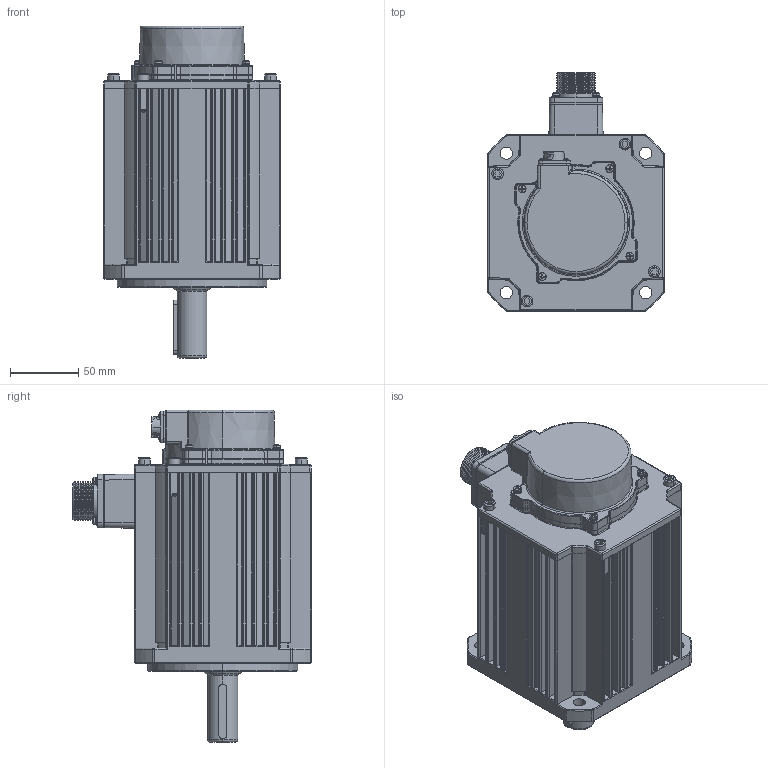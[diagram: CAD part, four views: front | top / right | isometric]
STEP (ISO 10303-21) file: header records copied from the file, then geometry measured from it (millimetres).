
FILE_DESCRIPTION (( 'STEP AP203' ), '1' );
FILE_NAME ('G3-130-14.64NM标准电机三维图.STEP', '2022-12-05T11:26:16', ( '微软用户' ), ( '微软中国' ), 'SwSTEP 2.0', 'SolidWorks 2016', '' );
FILE_SCHEMA (( 'CONFIG_CONTROL_DESIGN' ));
Length unit declared in the file: millimetre
Products named in the file (1): G3-130-14.64NM标准电机三维图
Bounding box: 130 x 175.3 x 244 mm (x, y, z)
Volume: 723946.2 mm3; surface area: 333088.9 mm2
Topology: 26 solids, 26 shells, 3452 faces, 8826 edges, 5537 vertices
Faces by surface type: plane 1244, cylinder 855, bspline 536, cone 493, torus 228, sphere 96
Entity records: 123648 total; most frequent: CARTESIAN_POINT 43565, ORIENTED_EDGE 17416, DIRECTION 15731, EDGE_CURVE 8708, AXIS2_PLACEMENT_3D 5665, VERTEX_POINT 5505, VECTOR 4401, LINE 4401
